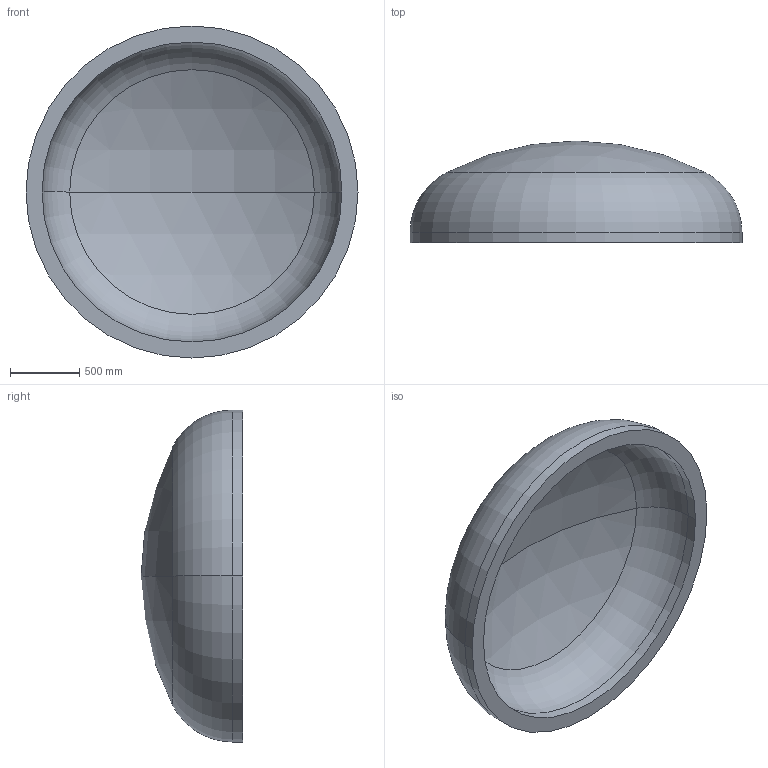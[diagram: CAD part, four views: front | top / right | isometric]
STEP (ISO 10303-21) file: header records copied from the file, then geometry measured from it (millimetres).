
FILE_DESCRIPTION (( 'STEP AP203' ), '1' );
FILE_NAME ('DIN 28013 Korbbogenform_-_Boden DIN 28013 - 2400 x 75 - I - s=116.step', '2016-07-01T15:46:47', ( '' ), ( '' ), 'SwSTEP 2.0', 'SolidWorks 2013', '' );
FILE_SCHEMA (( 'CONFIG_CONTROL_DESIGN' ));
Length unit declared in the file: millimetre
Products named in the file (1): DIN 28013 Korbbogenform_-_Boden DIN 28013 - 2400 x 75 - I - s=116
Bounding box: 2400 x 735.24 x 2400 mm (x, y, z)
Volume: 745551628.3 mm3; surface area: 13714863 mm2
Topology: 1 solids, 1 shells, 13 faces, 24 edges, 14 vertices
Faces by surface type: torus 4, cylinder 4, sphere 4, plane 1
Entity records: 407 total; most frequent: DIRECTION 72, CARTESIAN_POINT 52, ORIENTED_EDGE 48, AXIS2_PLACEMENT_3D 34, EDGE_CURVE 24, CIRCLE 20, VERTEX_POINT 14, EDGE_LOOP 14
